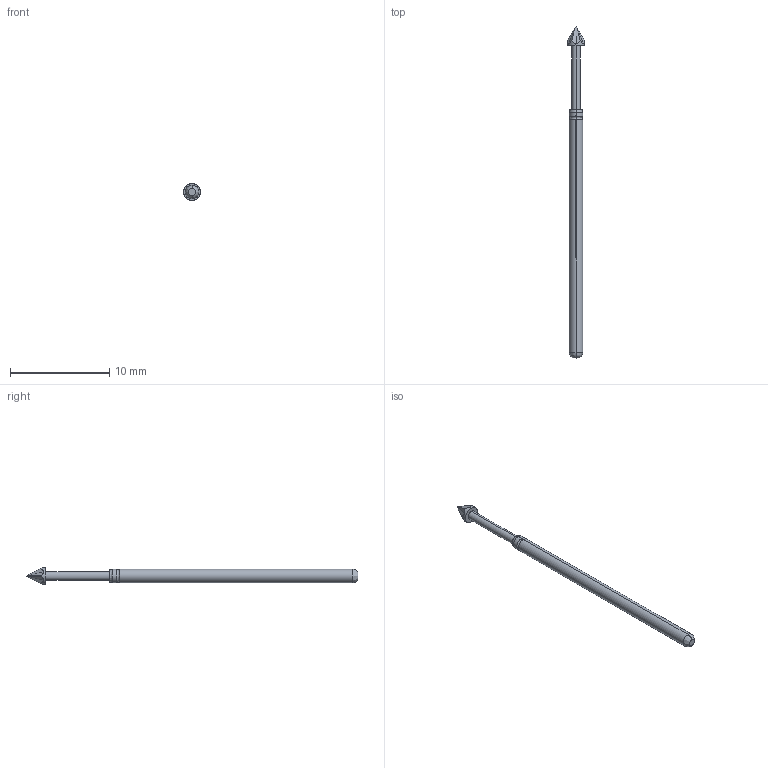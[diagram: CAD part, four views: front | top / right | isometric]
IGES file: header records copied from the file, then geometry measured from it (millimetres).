
Start section: SolidWorks IGES file using analytic representation for surfaces
Global section: file name: \\CODA-VM-SBS\RedirectedFolders\georged\My Documents\Coda\PA Series\Website\PA4M.IGS; native system: SolidWorks 2022; preprocessor: SolidWorks 2022; author: GeorgeD; date: 220711.121322; units: millimetre
Bounding box: 1.7 x 33.4 x 1.7 mm (x, y, z)
Surface area: 135.5 mm2 (no closed solid volume)
Topology: 0 solids, 0 shells, 29 faces, 206 edges, 206 vertices
Faces by surface type: bspline 21, revolution 8
